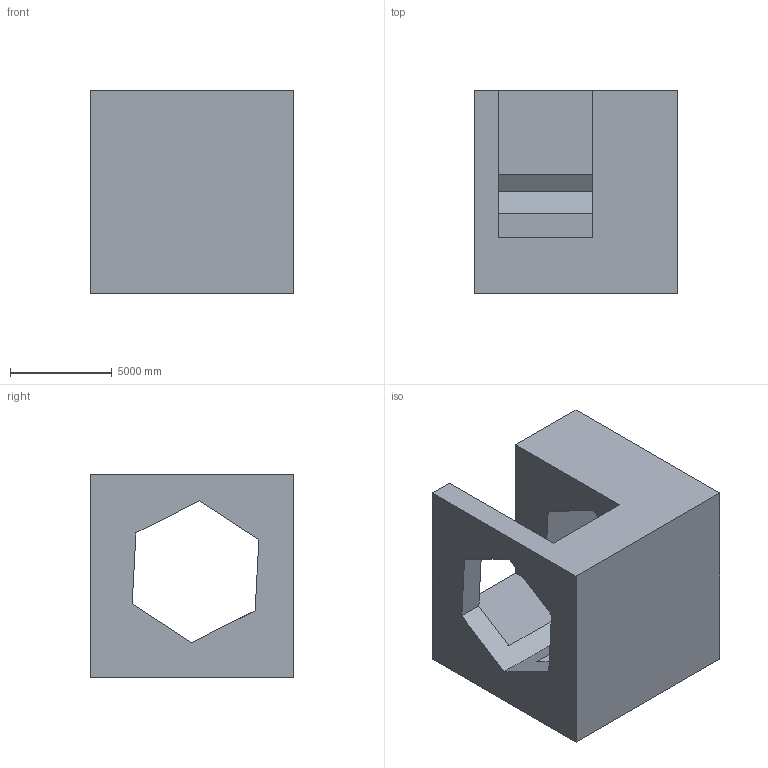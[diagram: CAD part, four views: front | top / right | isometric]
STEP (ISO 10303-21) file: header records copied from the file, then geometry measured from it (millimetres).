
FILE_DESCRIPTION (( 'STEP AP203' ), '1' );
FILE_NAME ('54.STEP', '2022-07-28T13:30:12', ( 'user' ), ( '' ), 'SwSTEP 2.0', 'SolidWorks 2021', '' );
FILE_SCHEMA (( 'CONFIG_CONTROL_DESIGN' ));
Length unit declared in the file: centimetre
Products named in the file (1): 54
Bounding box: 10000 x 10000 x 10000 mm (x, y, z)
Volume: 549889268305.2 mm3; surface area: 712888981.9 mm2
Topology: 1 solids, 1 shells, 22 faces, 63 edges, 42 vertices
Faces by surface type: plane 22
Entity records: 792 total; most frequent: CARTESIAN_POINT 128, ORIENTED_EDGE 126, DIRECTION 109, EDGE_CURVE 63, VECTOR 63, LINE 63, VERTEX_POINT 42, EDGE_LOOP 25
